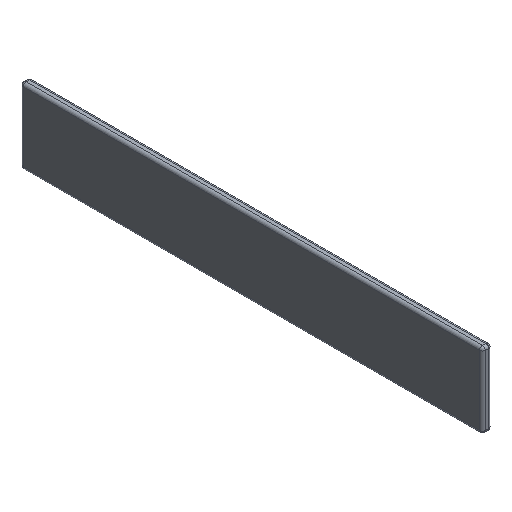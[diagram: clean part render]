
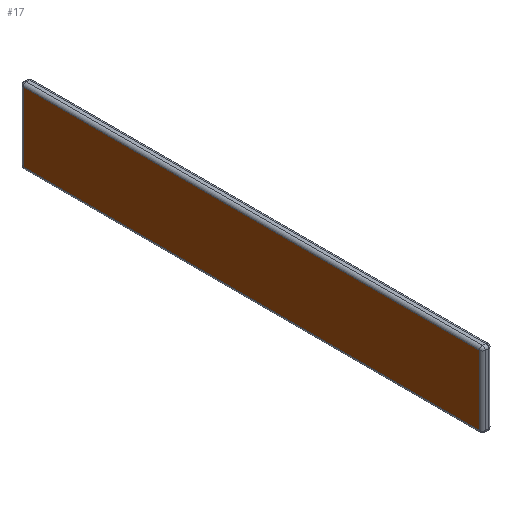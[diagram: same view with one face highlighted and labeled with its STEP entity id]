
A CAD part, isometric view. The second image highlights one B-rep face of the part: STEP entity #17.
In plain terms, the highlighted planar face has unit normal (-1, 0, 0).
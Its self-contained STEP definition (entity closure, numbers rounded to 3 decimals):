
#17 = ADVANCED_FACE('',(#18),#32,.F.);
#18 = FACE_BOUND('',#19,.F.);
#19 = EDGE_LOOP('',(#20,#55,#83,#111));
#20 = ORIENTED_EDGE('',*,*,#21,.F.);
#21 = EDGE_CURVE('',#22,#24,#26,.T.);
#22 = VERTEX_POINT('',#23);
#23 = CARTESIAN_POINT('',(86.6,-39.5,34.5));
#24 = VERTEX_POINT('',#25);
#25 = CARTESIAN_POINT('',(86.6,-39.5,46.5));
#26 = SURFACE_CURVE('',#27,(#31,#43),.PCURVE_S1.);
#27 = LINE('',#28,#29);
#28 = CARTESIAN_POINT('',(86.6,-39.5,34.));
#29 = VECTOR('',#30,1.);
#30 = DIRECTION('',(0.,0.,1.));
#31 = PCURVE('',#32,#37);
#32 = PLANE('',#33);
#33 = AXIS2_PLACEMENT_3D('',#34,#35,#36);
#34 = CARTESIAN_POINT('',(86.6,-40.,34.));
#35 = DIRECTION('',(1.,0.,-0.));
#36 = DIRECTION('',(0.,0.,1.));
#37 = DEFINITIONAL_REPRESENTATION('',(#38),#42);
#38 = LINE('',#39,#40);
#39 = CARTESIAN_POINT('',(0.,-0.5));
#40 = VECTOR('',#41,1.);
#41 = DIRECTION('',(1.,0.));
#42 = ( GEOMETRIC_REPRESENTATION_CONTEXT(2) 
PARAMETRIC_REPRESENTATION_CONTEXT() REPRESENTATION_CONTEXT('2D SPACE',''
  ) );
#43 = PCURVE('',#44,#49);
#44 = CYLINDRICAL_SURFACE('',#45,0.5);
#45 = AXIS2_PLACEMENT_3D('',#46,#47,#48);
#46 = CARTESIAN_POINT('',(87.1,-39.5,34.));
#47 = DIRECTION('',(0.,0.,1.));
#48 = DIRECTION('',(-1.,-0.,0.));
#49 = DEFINITIONAL_REPRESENTATION('',(#50),#54);
#50 = LINE('',#51,#52);
#51 = CARTESIAN_POINT('',(0.,0.));
#52 = VECTOR('',#53,1.);
#53 = DIRECTION('',(0.,1.));
#54 = ( GEOMETRIC_REPRESENTATION_CONTEXT(2) 
PARAMETRIC_REPRESENTATION_CONTEXT() REPRESENTATION_CONTEXT('2D SPACE',''
  ) );
#55 = ORIENTED_EDGE('',*,*,#56,.T.);
#56 = EDGE_CURVE('',#22,#57,#59,.T.);
#57 = VERTEX_POINT('',#58);
#58 = CARTESIAN_POINT('',(86.6,39.5,34.5));
#59 = SURFACE_CURVE('',#60,(#64,#71),.PCURVE_S1.);
#60 = LINE('',#61,#62);
#61 = CARTESIAN_POINT('',(86.6,-40.,34.5));
#62 = VECTOR('',#63,1.);
#63 = DIRECTION('',(-0.,1.,0.));
#64 = PCURVE('',#32,#65);
#65 = DEFINITIONAL_REPRESENTATION('',(#66),#70);
#66 = LINE('',#67,#68);
#67 = CARTESIAN_POINT('',(0.5,0.));
#68 = VECTOR('',#69,1.);
#69 = DIRECTION('',(0.,-1.));
#70 = ( GEOMETRIC_REPRESENTATION_CONTEXT(2) 
PARAMETRIC_REPRESENTATION_CONTEXT() REPRESENTATION_CONTEXT('2D SPACE',''
  ) );
#71 = PCURVE('',#72,#77);
#72 = CYLINDRICAL_SURFACE('',#73,0.5);
#73 = AXIS2_PLACEMENT_3D('',#74,#75,#76);
#74 = CARTESIAN_POINT('',(87.1,-40.,34.5));
#75 = DIRECTION('',(-0.,1.,0.));
#76 = DIRECTION('',(-1.,-0.,0.));
#77 = DEFINITIONAL_REPRESENTATION('',(#78),#82);
#78 = LINE('',#79,#80);
#79 = CARTESIAN_POINT('',(-0.,0.));
#80 = VECTOR('',#81,1.);
#81 = DIRECTION('',(-0.,1.));
#82 = ( GEOMETRIC_REPRESENTATION_CONTEXT(2) 
PARAMETRIC_REPRESENTATION_CONTEXT() REPRESENTATION_CONTEXT('2D SPACE',''
  ) );
#83 = ORIENTED_EDGE('',*,*,#84,.T.);
#84 = EDGE_CURVE('',#57,#85,#87,.T.);
#85 = VERTEX_POINT('',#86);
#86 = CARTESIAN_POINT('',(86.6,39.5,46.5));
#87 = SURFACE_CURVE('',#88,(#92,#99),.PCURVE_S1.);
#88 = LINE('',#89,#90);
#89 = CARTESIAN_POINT('',(86.6,39.5,34.));
#90 = VECTOR('',#91,1.);
#91 = DIRECTION('',(0.,0.,1.));
#92 = PCURVE('',#32,#93);
#93 = DEFINITIONAL_REPRESENTATION('',(#94),#98);
#94 = LINE('',#95,#96);
#95 = CARTESIAN_POINT('',(0.,-79.5));
#96 = VECTOR('',#97,1.);
#97 = DIRECTION('',(1.,0.));
#98 = ( GEOMETRIC_REPRESENTATION_CONTEXT(2) 
PARAMETRIC_REPRESENTATION_CONTEXT() REPRESENTATION_CONTEXT('2D SPACE',''
  ) );
#99 = PCURVE('',#100,#105);
#100 = CYLINDRICAL_SURFACE('',#101,0.5);
#101 = AXIS2_PLACEMENT_3D('',#102,#103,#104);
#102 = CARTESIAN_POINT('',(87.1,39.5,34.));
#103 = DIRECTION('',(0.,0.,1.));
#104 = DIRECTION('',(-1.,-0.,0.));
#105 = DEFINITIONAL_REPRESENTATION('',(#106),#110);
#106 = LINE('',#107,#108);
#107 = CARTESIAN_POINT('',(-0.,0.));
#108 = VECTOR('',#109,1.);
#109 = DIRECTION('',(-0.,1.));
#110 = ( GEOMETRIC_REPRESENTATION_CONTEXT(2) 
PARAMETRIC_REPRESENTATION_CONTEXT() REPRESENTATION_CONTEXT('2D SPACE',''
  ) );
#111 = ORIENTED_EDGE('',*,*,#112,.F.);
#112 = EDGE_CURVE('',#24,#85,#113,.T.);
#113 = SURFACE_CURVE('',#114,(#118,#125),.PCURVE_S1.);
#114 = LINE('',#115,#116);
#115 = CARTESIAN_POINT('',(86.6,-40.,46.5));
#116 = VECTOR('',#117,1.);
#117 = DIRECTION('',(-0.,1.,0.));
#118 = PCURVE('',#32,#119);
#119 = DEFINITIONAL_REPRESENTATION('',(#120),#124);
#120 = LINE('',#121,#122);
#121 = CARTESIAN_POINT('',(12.5,0.));
#122 = VECTOR('',#123,1.);
#123 = DIRECTION('',(0.,-1.));
#124 = ( GEOMETRIC_REPRESENTATION_CONTEXT(2) 
PARAMETRIC_REPRESENTATION_CONTEXT() REPRESENTATION_CONTEXT('2D SPACE',''
  ) );
#125 = PCURVE('',#126,#131);
#126 = CYLINDRICAL_SURFACE('',#127,0.5);
#127 = AXIS2_PLACEMENT_3D('',#128,#129,#130);
#128 = CARTESIAN_POINT('',(87.1,-40.,46.5));
#129 = DIRECTION('',(-0.,1.,0.));
#130 = DIRECTION('',(-1.,-0.,0.));
#131 = DEFINITIONAL_REPRESENTATION('',(#132),#136);
#132 = LINE('',#133,#134);
#133 = CARTESIAN_POINT('',(0.,0.));
#134 = VECTOR('',#135,1.);
#135 = DIRECTION('',(0.,1.));
#136 = ( GEOMETRIC_REPRESENTATION_CONTEXT(2) 
PARAMETRIC_REPRESENTATION_CONTEXT() REPRESENTATION_CONTEXT('2D SPACE',''
  ) );
